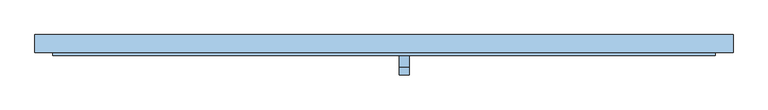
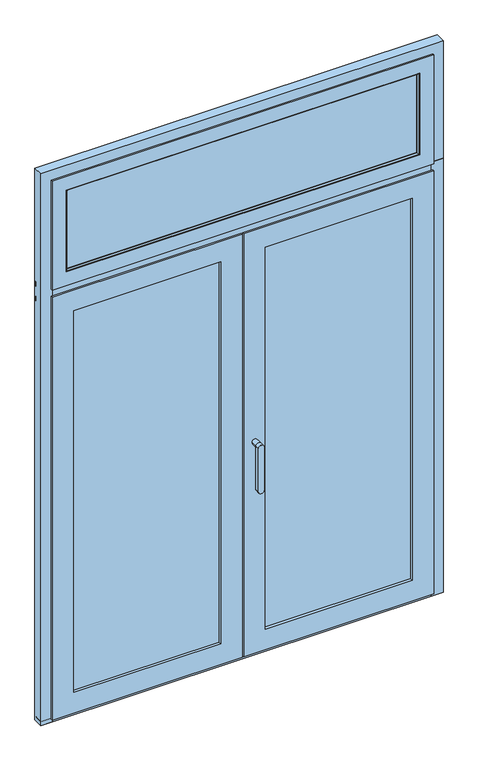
"""IFC4 building model written with IfcOpenShell, lengths in millimetres: window geometry, Double balcony door with toplight : Double balcony door with toplight."""

from ifc_helpers import new_model, si_unit, point, frame, frame_2d, origin, place, context, project, spatial, polyline, circle_curve, ellipse_curve, trimmed, segment, composite_curve, outline, extrude, faceted_brep, source, transform, mapped, element, save
from ifc_brep_helpers import plane_surface, cylinder_surface, advanced_brep


def window_083b68ea(model_context):
    return source(origin(), model_context, "Body", "SolidModel", [
        extrude(outline(polyline([(-791.0033737, 4.9350574), (791.0033737, 4.9350574), (791.0033737, -19.0649426), (-791.0033737, -19.0649426), (-791.0033737, 4.9350574)])), frame((0.0, 0.0, 2888.9966263), z_axis=(0.0, 0.0, 1.0), x_axis=(1.0, 0.0, 0.0)), (0.0, 0.0, 1.0), 402.0067474),
        advanced_brep(
        [(-775.9999852, -23.5000607, 2904.0000148), (-777.7795065, -30.8333995, 2902.2204935), (777.7795065, -30.8333995, 2902.2204935), (775.9999852, -23.5000607, 2904.0000148), (777.7795065, -30.8333995, 3277.7795065), (775.9999852, -23.5000607, 3275.9999852), (781.3346252, -33.0000607, 2898.6653748), (781.3346252, -33.0000607, 3281.3346252), (775.9999852, -19.0649426, 2904.0000148), (775.9999852, -19.0649426, 3275.9999852), (-775.9999852, -19.0649426, 2904.0000148), (791.0033737, -19.0649426, 2888.9966263), (-791.0033737, -19.0649426, 2888.9966263), (-791.0033737, -19.0649426, 3291.0033737), (791.0033737, -19.0649426, 3291.0033737), (-775.9999852, -19.0649426, 3275.9999852), (-791.0033737, 4.9350574, 2888.9966263), (791.0033737, 4.9350574, 2888.9966263), (791.0033737, 4.9350574, 3291.0033737), (-791.0033737, 4.9350574, 3291.0033737), (775.9999772, 4.9350574, 2904.0000228), (-775.9999772, 4.9350574, 2904.0000228), (-775.9999772, 4.9350574, 3275.9999772), (775.9999772, 4.9350574, 3275.9999772), (-775.9999772, 14.5000003, 2904.0000228), (775.9999772, 14.5000003, 2904.0000228), (775.9999772, 14.5000003, 3275.9999772), (781.4999772, 20.0000003, 2898.5000228), (781.4999772, 20.0000003, 3281.4999772), (-781.4999772, 20.0000003, 2898.5000228), (811.5, 20.0000002, 2868.5), (-811.5, 20.0000002, 2868.5), (-811.5, 20.0000002, 3311.5), (811.5, 20.0000002, 3311.5), (-781.4999772, 20.0000002, 3281.4999772), (-811.5, 12.0000003, 2868.5), (811.5, 12.0000003, 2868.5), (811.5, 12.0000003, 3311.5), (826.9999558, 12.0000003, 2853.0000442), (-826.9999558, 12.0000003, 2853.0000442), (-826.9999558, 12.0000003, 3326.9999558), (826.9999558, 12.0000003, 3326.9999558), (-811.5, 12.0000003, 3311.5), (-826.9999558, -25.0083922, 2853.0000442), (826.9999558, -25.0083922, 2853.0000442), (826.9999558, -25.0083922, 3326.9999558), (844.5000082, -25.0083922, 2835.4999918), (-844.5000082, -25.0083922, 2835.4999918), (-844.5000082, -25.0083922, 3344.5000082), (844.5000082, -25.0083922, 3344.5000082), (-826.9999558, -25.0083922, 3326.9999558), (-844.5000082, -33.0000607, 2835.4999918), (844.5000082, -33.0000607, 2835.4999918), (844.5000082, -33.0000607, 3344.5000082), (-844.5000082, -33.0000607, 3344.5000082), (-781.3346252, -33.0000607, 2898.6653748), (-781.3346252, -33.0000607, 3281.3346252), (-775.9999852, -23.5000607, 3275.9999852), (-777.7795065, -30.8333995, 3277.7795065), (-775.9999772, 14.5000003, 3275.9999772)],
        [
            (0, 1, ellipse_curve(frame((-791.9999492, -23.5000607, 2888.0000508), z_axis=(0.7071067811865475, 0.0, -0.7071067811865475), x_axis=(-0.7071067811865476, 0.0, -0.7071067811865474)), 22.6273661, 15.999964)),
            (1, 2),
            (2, 3, ellipse_curve(frame((791.9999492, -23.5000607, 2888.0000508), z_axis=(-0.7071067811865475, 0.0, -0.7071067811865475), x_axis=(-0.7071067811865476, 0.0, 0.7071067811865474)), 22.6273661, 15.999964)),
            (3, 0),
            (2, 4),
            (4, 5, ellipse_curve(frame((791.9999492, -23.5000607, 3291.9999492), z_axis=(0.7071067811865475, 0.0, -0.7071067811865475), x_axis=(-0.7071067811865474, 0.0, -0.7071067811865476)), 22.6273661, 15.999964)),
            (5, 3),
            (2, 6, ellipse_curve(frame((781.3346252, -29.0000607, 2898.6653748), z_axis=(0.7071067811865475, 0.0, 0.7071067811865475), x_axis=(0.7071067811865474, 0.0, -0.7071067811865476)), 5.6568542, 4.0)),
            (6, 7),
            (7, 4, ellipse_curve(frame((781.3346252, -29.0000607, 3281.3346252), z_axis=(0.7071067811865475, 0.0, -0.7071067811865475), x_axis=(-0.7071067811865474, 0.0, -0.7071067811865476)), 5.6568542, 4.0)),
            (8, 3),
            (5, 9),
            (9, 8),
            (10, 0),
            (8, 10),
            (11, 12),
            (12, 13),
            (13, 14),
            (14, 11),
            (9, 15),
            (15, 10),
            (16, 12),
            (11, 17),
            (17, 16),
            (14, 18),
            (18, 17),
            (18, 19),
            (19, 16),
            (20, 21),
            (21, 22),
            (22, 23),
            (23, 20),
            (24, 21),
            (20, 25),
            (25, 24),
            (23, 26),
            (26, 25),
            (27, 25, ellipse_curve(frame((781.4999772, 14.5000003, 2898.5000228), z_axis=(0.7071067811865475, 0.0, 0.7071067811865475), x_axis=(0.7071067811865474, 0.0, -0.7071067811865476)), 7.7781746, 5.5)),
            (26, 28, ellipse_curve(frame((781.4999772, 14.5000003, 3281.4999772), z_axis=(0.7071067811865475, 0.0, -0.7071067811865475), x_axis=(-0.7071067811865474, 0.0, -0.7071067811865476)), 7.7781746, 5.5)),
            (28, 27),
            (29, 24, ellipse_curve(frame((-781.4999772, 14.5000003, 2898.5000228), z_axis=(0.7071067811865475, 0.0, -0.7071067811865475), x_axis=(-0.7071067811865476, 0.0, -0.7071067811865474)), 7.7781746, 5.5)),
            (27, 29),
            (30, 31),
            (31, 32),
            (32, 33),
            (33, 30),
            (28, 34),
            (34, 29),
            (35, 31),
            (30, 36),
            (36, 35),
            (33, 37),
            (37, 36),
            (38, 39),
            (39, 40),
            (40, 41),
            (41, 38),
            (37, 42),
            (42, 35),
            (43, 39),
            (38, 44),
            (44, 43),
            (41, 45),
            (45, 44),
            (46, 47),
            (47, 48),
            (48, 49),
            (49, 46),
            (45, 50),
            (50, 43),
            (51, 47),
            (46, 52),
            (52, 51),
            (49, 53),
            (53, 52),
            (53, 54),
            (54, 51),
            (6, 55),
            (55, 56),
            (56, 7),
            (1, 55, ellipse_curve(frame((-781.3346252, -29.0000607, 2898.6653748), z_axis=(0.7071067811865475, 0.0, -0.7071067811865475), x_axis=(-0.7071067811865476, 0.0, -0.7071067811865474)), 5.6568542, 4.0)),
            (57, 58, ellipse_curve(frame((-791.9999492, -23.5000607, 3291.9999492), z_axis=(-0.7071067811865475, 0.0, -0.7071067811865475), x_axis=(-0.7071067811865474, 0.0, 0.7071067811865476)), 22.6273661, 15.999964)),
            (58, 1),
            (0, 57),
            (58, 56, ellipse_curve(frame((-781.3346252, -29.0000607, 3281.3346252), z_axis=(-0.7071067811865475, 0.0, -0.7071067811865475), x_axis=(-0.7071067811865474, 0.0, 0.7071067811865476)), 5.6568542, 4.0)),
            (15, 57),
            (19, 13),
            (59, 22),
            (24, 59),
            (34, 59, ellipse_curve(frame((-781.4999772, 14.5000003, 3281.4999772), z_axis=(-0.7071067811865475, 0.0, -0.7071067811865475), x_axis=(-0.7071067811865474, 0.0, 0.7071067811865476)), 7.7781746, 5.5)),
            (42, 32),
            (50, 40),
            (54, 48),
            (4, 58),
            (57, 5),
            (59, 26),
        ],
        [
            cylinder_surface(frame((-890.0, -23.5000607, 2888.0000508), z_axis=(-1.0, 0.0, 0.0), x_axis=(0.0, 0.0, 1.0)), 15.999964),
            cylinder_surface(frame((791.9999492, -23.5000607, 2790.0), z_axis=(0.0, 0.0, -1.0), x_axis=(-1.0, 0.0, 0.0)), 15.999964),
            cylinder_surface(frame((781.3346252, -29.0000607, 2790.0), z_axis=(0.0, 0.0, -1.0), x_axis=(-0.888780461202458, -0.45833316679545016, 0.0)), 4.0),
            plane_surface(frame((775.9999852, -23.5000607, 2904.0000148), z_axis=(-1.0, 0.0, 0.0), x_axis=(0.0, 0.0, 1.0))),
            plane_surface(frame((-775.9999852, -23.5000607, 2904.0000148), z_axis=(0.0, 0.0, 1.0), x_axis=(1.0, 0.0, 0.0))),
            plane_surface(frame((-775.9999852, -19.0649426, 2904.0000148), z_axis=(0.0, 1.0, 0.0), x_axis=(1.0, 0.0, 0.0))),
            plane_surface(frame((-791.0033737, -19.0649426, 2888.9966263), z_axis=(0.0, 0.0, 1.0), x_axis=(1.0, 0.0, 0.0))),
            plane_surface(frame((791.0033737, -19.0649426, 2888.9966263), z_axis=(-1.0, 0.0, 0.0), x_axis=(0.0, 0.0, 1.0))),
            plane_surface(frame((-791.0033737, 4.9350574, 2888.9966263), z_axis=(0.0, -1.0, 0.0), x_axis=(1.0, 0.0, 0.0))),
            plane_surface(frame((-775.9999772, 4.9350574, 2904.0000228), z_axis=(0.0, 0.0, 1.0), x_axis=(1.0, 0.0, 0.0))),
            plane_surface(frame((775.9999772, 4.9350574, 2904.0000228), z_axis=(-1.0, 0.0, 0.0), x_axis=(0.0, 0.0, 1.0))),
            cylinder_surface(frame((781.4999772, 14.5000003, 2790.0), z_axis=(0.0, 0.0, -1.0), x_axis=(0.0, 1.0, 0.0)), 5.5),
            cylinder_surface(frame((-890.0, 14.5000003, 2898.5000228), z_axis=(-1.0, 0.0, 0.0), x_axis=(0.0, 1.0, 0.0)), 5.5),
            plane_surface(frame((-781.4999772, 20.0000002, 2898.5000228), z_axis=(0.0, 1.0, 0.0), x_axis=(1.0, 0.0, 0.0))),
            plane_surface(frame((-811.5, 20.0000002, 2868.5), z_axis=(0.0, 0.0, -1.0), x_axis=(1.0, 0.0, 0.0))),
            plane_surface(frame((811.5, 20.0000002, 2868.5), z_axis=(1.0, 0.0, 0.0), x_axis=(0.0, 0.0, 1.0))),
            plane_surface(frame((-811.5, 12.0000003, 2868.5), z_axis=(0.0, 1.0, 0.0), x_axis=(1.0, 0.0, 0.0))),
            plane_surface(frame((-826.9999558, 12.0000003, 2853.0000442), z_axis=(0.0, 0.0, -1.0), x_axis=(1.0, 0.0, 0.0))),
            plane_surface(frame((826.9999558, 12.0000003, 2853.0000442), z_axis=(1.0, 0.0, 0.0), x_axis=(0.0, 0.0, 1.0))),
            plane_surface(frame((-826.9999558, -25.0083922, 2853.0000442), z_axis=(0.0, 1.0, 0.0), x_axis=(1.0, 0.0, 0.0))),
            plane_surface(frame((-844.5000082, -25.0083922, 2835.4999918), z_axis=(0.0, 0.0, -1.0), x_axis=(1.0, 0.0, 0.0))),
            plane_surface(frame((844.5000082, -25.0083922, 2835.4999918), z_axis=(1.0, 0.0, 0.0), x_axis=(0.0, 0.0, 1.0))),
            plane_surface(frame((-844.5000082, -33.0000607, 2835.4999918), z_axis=(0.0, -1.0, 0.0), x_axis=(1.0, 0.0, 0.0))),
            cylinder_surface(frame((-890.0, -29.0000607, 2898.6653748), z_axis=(-1.0, 0.0, 0.0), x_axis=(0.0, -0.45833316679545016, 0.888780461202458)), 4.0),
            cylinder_surface(frame((-791.9999492, -23.5000607, 3390.0), z_axis=(0.0, 0.0, 1.0), x_axis=(1.0, 0.0, 0.0)), 15.999964),
            cylinder_surface(frame((-781.3346252, -29.0000607, 3390.0), z_axis=(0.0, 0.0, 1.0), x_axis=(0.888780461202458, -0.45833316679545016, 0.0)), 4.0),
            plane_surface(frame((-775.9999852, -23.5000607, 3275.9999852), z_axis=(1.0, 0.0, 0.0), x_axis=(0.0, 0.0, -1.0))),
            plane_surface(frame((-791.0033737, -19.0649426, 3291.0033737), z_axis=(1.0, 0.0, 0.0), x_axis=(0.0, 0.0, -1.0))),
            plane_surface(frame((-775.9999772, 4.9350574, 3275.9999772), z_axis=(1.0, 0.0, 0.0), x_axis=(0.0, 0.0, -1.0))),
            cylinder_surface(frame((-781.4999772, 14.5000003, 3390.0), z_axis=(0.0, 0.0, 1.0), x_axis=(0.0, 1.0, 0.0)), 5.5),
            plane_surface(frame((-811.5, 20.0000002, 3311.5), z_axis=(-1.0, 0.0, 0.0), x_axis=(0.0, 0.0, -1.0))),
            plane_surface(frame((-826.9999558, 12.0000003, 3326.9999558), z_axis=(-1.0, 0.0, 0.0), x_axis=(0.0, 0.0, -1.0))),
            plane_surface(frame((-844.5000082, -25.0083922, 3344.5000082), z_axis=(-1.0, 0.0, 0.0), x_axis=(0.0, 0.0, -1.0))),
            cylinder_surface(frame((890.0, -23.5000607, 3291.9999492), z_axis=(1.0, 0.0, 0.0), x_axis=(0.0, 0.0, -1.0)), 15.999964),
            plane_surface(frame((775.9999852, -23.5000607, 3275.9999852), z_axis=(0.0, 0.0, -1.0), x_axis=(-1.0, 0.0, 0.0))),
            plane_surface(frame((791.0033737, -19.0649426, 3291.0033737), z_axis=(0.0, 0.0, -1.0), x_axis=(-1.0, 0.0, 0.0))),
            plane_surface(frame((775.9999772, 4.9350574, 3275.9999772), z_axis=(0.0, 0.0, -1.0), x_axis=(-1.0, 0.0, 0.0))),
            cylinder_surface(frame((890.0, 14.5000003, 3281.4999772), z_axis=(1.0, 0.0, 0.0), x_axis=(0.0, 1.0, 0.0)), 5.5),
            plane_surface(frame((811.5, 20.0000002, 3311.5), z_axis=(0.0, 0.0, 1.0), x_axis=(-1.0, 0.0, 0.0))),
            plane_surface(frame((826.9999558, 12.0000003, 3326.9999558), z_axis=(0.0, 0.0, 1.0), x_axis=(-1.0, 0.0, 0.0))),
            plane_surface(frame((844.5000082, -25.0083922, 3344.5000082), z_axis=(0.0, 0.0, 1.0), x_axis=(-1.0, 0.0, 0.0))),
            cylinder_surface(frame((890.0, -29.0000607, 3281.3346252), z_axis=(1.0, 0.0, 0.0), x_axis=(0.0, -0.45833316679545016, -0.888780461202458)), 4.0),
        ],
        [
            (0, [[1, 2, 3, 4]]),
            (1, [[-3, 5, 6, 7]]),
            (2, [[8, 9, 10, -5]]),
            (3, [[11, -7, 12, 13]]),
            (4, [[14, -4, -11, 15]]),
            (5, [[16, 17, 18, 19], [20, 21, -15, -13]]),
            (6, [[22, -16, 23, 24]]),
            (7, [[-23, -19, 25, 26]]),
            (8, [[27, 28, -24, -26], [29, 30, 31, 32]]),
            (9, [[33, -29, 34, 35]]),
            (10, [[-34, -32, 36, 37]]),
            (11, [[38, -37, 39, 40]]),
            (12, [[41, -35, -38, 42]]),
            (13, [[43, 44, 45, 46], [47, 48, -42, -40]]),
            (14, [[49, -43, 50, 51]]),
            (15, [[-50, -46, 52, 53]]),
            (16, [[54, 55, 56, 57], [58, 59, -51, -53]]),
            (17, [[60, -54, 61, 62]]),
            (18, [[-61, -57, 63, 64]]),
            (19, [[65, 66, 67, 68], [69, 70, -62, -64]]),
            (20, [[71, -65, 72, 73]]),
            (21, [[-72, -68, 74, 75]]),
            (22, [[76, 77, -73, -75], [78, 79, 80, -9]]),
            (23, [[81, -78, -8, -2]]),
            (24, [[82, 83, -1, 84]]),
            (25, [[85, -79, -81, -83]]),
            (26, [[86, -84, -14, -21]]),
            (27, [[87, -17, -22, -28]]),
            (28, [[88, -30, -33, 89]]),
            (29, [[90, -89, -41, -48]]),
            (30, [[91, -44, -49, -59]]),
            (31, [[92, -55, -60, -70]]),
            (32, [[93, -66, -71, -77]]),
            (33, [[-6, 94, -82, 95]]),
            (34, [[-12, -95, -86, -20]]),
            (35, [[-25, -18, -87, -27]]),
            (36, [[-36, -31, -88, 96]]),
            (37, [[-39, -96, -90, -47]]),
            (38, [[-52, -45, -91, -58]]),
            (39, [[-63, -56, -92, -69]]),
            (40, [[-74, -67, -93, -76]]),
            (41, [[-10, -80, -85, -94]]),
        ],
    ),
        advanced_brep(
        [(39.5000095, -82.9999106, 1813.5), (39.5000095, -82.9999106, 1613.5), (64.5000095, -82.9999106, 1613.5), (64.5000095, -82.9999106, 1813.5), (64.5000095, -62.9999106, 1813.5), (64.5000095, -62.9999106, 1613.5), (39.5000095, -62.9999106, 1613.5), (39.5000095, -62.9999106, 1813.5), (39.5000095, -32.9999106, 1813.5), (64.5000095, -32.9999106, 1813.5)],
        [
            (0, 1),
            (1, 2, circle_curve(frame((52.0000095, -82.9999106, 1613.5), z_axis=(0.0, -1.0, 0.0), x_axis=(1.0, 0.0, 0.0)), 12.5)),
            (2, 3),
            (3, 0, circle_curve(frame((52.0000095, -82.9999106, 1813.5), z_axis=(0.0, -1.0, 0.0), x_axis=(1.0, 0.0, 0.0)), 12.5)),
            (4, 5),
            (5, 6, circle_curve(frame((52.0000095, -62.9999106, 1613.5), z_axis=(0.0, 1.0, 0.0), x_axis=(1.0, 0.0, 0.0)), 12.5)),
            (6, 7),
            (7, 4, circle_curve(frame((52.0000095, -62.9999106, 1813.5), z_axis=(0.0, -1.0, 0.0), x_axis=(1.0, 0.0, 0.0)), 12.5)),
            (0, 7),
            (6, 1),
            (5, 2),
            (4, 3),
            (4, 7, circle_curve(frame((52.0000095, -62.9999106, 1813.5), z_axis=(0.0, -1.0, 0.0), x_axis=(1.0, 0.0, 0.0)), 12.5)),
            (8, 9, circle_curve(frame((52.0000095, -32.9999106, 1813.5), z_axis=(0.0, 1.0, 0.0), x_axis=(1.0, 0.0, 0.0)), 12.5)),
            (9, 8, circle_curve(frame((52.0000095, -32.9999106, 1813.5), z_axis=(0.0, 1.0, 0.0), x_axis=(1.0, 0.0, 0.0)), 12.5)),
            (9, 4),
            (7, 8),
        ],
        [
            plane_surface(frame((39.5000095, -82.9999106, 1813.5), z_axis=(0.0, -1.0, 0.0), x_axis=(0.0, 0.0, -1.0))),
            plane_surface(frame((39.5000095, -62.9999106, 1813.5), z_axis=(0.0, 1.0, 0.0), x_axis=(0.0, 0.0, 1.0))),
            plane_surface(frame((39.5000095, -82.9999106, 1813.5), z_axis=(-1.0, 0.0, 0.0), x_axis=(0.0, 1.0, 0.0))),
            cylinder_surface(frame((52.0000095, -62.9999106, 1613.5), z_axis=(0.0, -1.0, 0.0), x_axis=(1.0, 0.0, 0.0)), 12.5),
            plane_surface(frame((64.5000095, -82.9999106, 1613.5), z_axis=(1.0, 0.0, 0.0), x_axis=(0.0, 1.0, 0.0))),
            cylinder_surface(frame((52.0000095, -62.9999106, 1813.5), z_axis=(0.0, -1.0, 0.0), x_axis=(1.0, 0.0, 0.0)), 12.5),
            plane_surface(frame((64.5000095, -32.9999106, 1813.5), z_axis=(0.0, 1.0, 0.0), x_axis=(0.0, 0.0, -1.0))),
            cylinder_surface(frame((52.0000095, -32.9999106, 1813.5), z_axis=(0.0, -1.0, 0.0), x_axis=(1.0, 0.0, 0.0)), 12.5),
        ],
        [
            (0, [[1, 2, 3, 4]]),
            (1, [[5, 6, 7, 8]]),
            (2, [[-1, 9, -7, 10]]),
            (3, [[-2, -10, -6, 11]]),
            (4, [[-3, -11, -5, 12]]),
            (5, [[-4, -12, 13, -9]]),
            (6, [[14, 15]]),
            (7, [[-15, 16, -8, 17]]),
            (7, [[-14, -17, -13, -16]]),
        ],
    ),
        extrude(outline(polyline([(83.3034335, 4.499239), (763.6965665, 4.499239), (763.6965665, -19.5007315), (83.3034335, -19.5007315), (83.3034335, 4.499239)])), frame((0.0, 0.0, 905.3034335), z_axis=(0.0, 0.0, 1.0), x_axis=(1.0, 0.0, 0.0)), (0.0, 0.0, 1.0), 1816.3931331),
        advanced_brep(
        [(748.7001046, 14.5000063, 2706.7001046), (754.2001016, 20.0, 2712.2001016), (754.2001016, 20.0, 914.7998984), (748.7001046, 14.5000063, 920.2998954), (811.4993978, 20.0, 857.5006022), (35.5006022, 20.0, 857.5006022), (35.5006022, 20.0, 2769.4993978), (811.4993978, 20.0, 2769.4993978), (92.7998984, 20.0, 2712.2001016), (92.7998984, 20.0, 914.7998984), (98.2998954, 14.5000063, 920.2998954), (748.7000986, 4.499239, 2706.7000986), (748.7000986, 4.499239, 920.2999014), (98.2999014, 4.499239, 920.2999014), (763.6965665, 4.499239, 2721.6965665), (83.3034335, 4.499239, 2721.6965665), (83.3034335, 4.499239, 905.3034335), (763.6965665, 4.499239, 905.3034335), (98.2999014, 4.499239, 2706.7000986), (763.6965665, -19.5007315, 2721.6965665), (763.6965665, -19.5007315, 905.3034335), (83.3034335, -19.5007315, 905.3034335), (83.3034335, -19.5007315, 2721.6965665), (748.7000738, -19.5007315, 2706.7000738), (98.2999262, -19.5007315, 2706.7000738), (98.2999262, -19.5007315, 920.2999262), (748.7000738, -19.5007315, 920.2999262), (748.7000738, -32.9999106, 2706.7000738), (748.7000738, -32.9999106, 920.2999262), (98.2999262, -32.9999106, 920.2999262), (844.4999905, -32.9999106, 2802.4999905), (2.5000095, -32.9999106, 2802.4999905), (2.5000095, -32.9999106, 824.5000095), (844.4999905, -32.9999106, 824.5000095), (98.2999262, -32.9999106, 2706.7000738), (844.4999905, -24.9999669, 2802.4999905), (844.4999905, -24.9999669, 824.5000095), (2.5000095, -24.9999669, 824.5000095), (2.5000095, -24.9999669, 2802.4999905), (826.9999853, -24.9999669, 2784.9999853), (20.0000147, -24.9999669, 2784.9999853), (20.0000147, -24.9999669, 842.0000147), (826.9999853, -24.9999669, 842.0000147), (826.9999853, 12.0000948, 2784.9999853), (826.9999853, 12.0000948, 842.0000147), (20.0000147, 12.0000948, 842.0000147), (20.0000147, 12.0000948, 2784.9999853), (811.4993978, 12.0000948, 2769.4993978), (35.5006022, 12.0000948, 2769.4993978), (35.5006022, 12.0000948, 857.5006022), (811.4993978, 12.0000948, 857.5006022), (98.2998954, 14.5000063, 2706.7001046)],
        [
            (0, 1, ellipse_curve(frame((754.2001016, 14.500003, 2712.2001016), z_axis=(0.7071067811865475, 0.0, -0.7071067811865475), x_axis=(0.7071067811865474, 0.0, 0.7071067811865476)), 7.7781703, 5.499997)),
            (1, 2),
            (2, 3, ellipse_curve(frame((754.2001016, 14.500003, 914.7998984), z_axis=(0.7071067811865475, 0.0, 0.7071067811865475), x_axis=(-0.7071067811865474, 0.0, 0.7071067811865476)), 7.7781703, 5.499997)),
            (3, 0),
            (4, 5),
            (5, 6),
            (6, 7),
            (7, 4),
            (1, 8),
            (8, 9),
            (9, 2),
            (9, 10, ellipse_curve(frame((92.7998984, 14.500003, 914.7998984), z_axis=(0.7071067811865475, 0.0, -0.7071067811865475), x_axis=(0.7071067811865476, 0.0, 0.7071067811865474)), 7.7781703, 5.499997)),
            (10, 3),
            (11, 0),
            (3, 12),
            (12, 11),
            (10, 13),
            (13, 12),
            (14, 15),
            (15, 16),
            (16, 17),
            (17, 14),
            (13, 18),
            (18, 11),
            (19, 14),
            (17, 20),
            (20, 19),
            (16, 21),
            (21, 20),
            (21, 22),
            (22, 19),
            (23, 24),
            (24, 25),
            (25, 26),
            (26, 23),
            (27, 23),
            (26, 28),
            (28, 27),
            (25, 29),
            (29, 28),
            (30, 31),
            (31, 32),
            (32, 33),
            (33, 30),
            (29, 34),
            (34, 27),
            (35, 30),
            (33, 36),
            (36, 35),
            (32, 37),
            (37, 36),
            (37, 38),
            (38, 35),
            (39, 40),
            (40, 41),
            (41, 42),
            (42, 39),
            (43, 39),
            (42, 44),
            (44, 43),
            (41, 45),
            (45, 44),
            (45, 46),
            (46, 43),
            (47, 48),
            (48, 49),
            (49, 50),
            (50, 47),
            (7, 47),
            (50, 4),
            (49, 5),
            (8, 51, ellipse_curve(frame((92.7998984, 14.500003, 2712.2001016), z_axis=(-0.7071067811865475, 0.0, -0.7071067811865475), x_axis=(0.7071067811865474, 0.0, -0.7071067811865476)), 7.7781703, 5.499997)),
            (51, 10),
            (51, 18),
            (15, 22),
            (24, 34),
            (31, 38),
            (40, 46),
            (48, 6),
            (0, 51),
        ],
        [
            cylinder_surface(frame((754.2001016, 14.500003, 2848.0), z_axis=(0.0, 0.0, 1.0000000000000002), x_axis=(-0.9999999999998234, 5.945878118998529e-07, 0.0)), 5.499997),
            plane_surface(frame((35.5006022, 20.0, 2769.4993978), z_axis=(0.0, 1.0, 0.0), x_axis=(1.0, 0.0, 0.0))),
            cylinder_surface(frame((890.0, 14.500003, 914.7998984), z_axis=(1.0000000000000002, 0.0, 0.0), x_axis=(0.0, 5.945878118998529e-07, 0.9999999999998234)), 5.499997),
            plane_surface(frame((748.7000986, 14.5000063, 2706.7000986), z_axis=(-1.0, 0.0, 0.0), x_axis=(0.0, 0.0, -1.0))),
            plane_surface(frame((748.7000986, 14.5000063, 920.2999014), z_axis=(0.0, 0.0, 1.0), x_axis=(-1.0, 0.0, 0.0))),
            plane_surface(frame((98.2999014, 4.499239, 2706.7000986), z_axis=(0.0, -1.0, 0.0), x_axis=(1.0, 0.0, 0.0))),
            plane_surface(frame((763.6965665, 4.499239, 2721.6965665), z_axis=(-1.0, 0.0, 0.0), x_axis=(0.0, 0.0, -1.0))),
            plane_surface(frame((763.6965665, 4.499239, 905.3034335), z_axis=(0.0, 0.0, 1.0), x_axis=(-1.0, 0.0, 0.0))),
            plane_surface(frame((83.3034335, -19.5007315, 2721.6965665), z_axis=(0.0, 1.0, 0.0), x_axis=(1.0, 0.0, 0.0))),
            plane_surface(frame((748.7000738, -19.5007315, 2706.7000738), z_axis=(-1.0, 0.0, 0.0), x_axis=(0.0, 0.0, -1.0))),
            plane_surface(frame((748.7000738, -19.5007315, 920.2999262), z_axis=(0.0, 0.0, 1.0), x_axis=(-1.0, 0.0, 0.0))),
            plane_surface(frame((98.2999262, -32.9999106, 2706.7000738), z_axis=(0.0, -1.0, 0.0), x_axis=(1.0, 0.0, 0.0))),
            plane_surface(frame((844.4999905, -32.9999106, 2802.4999905), z_axis=(1.0, 0.0, 0.0), x_axis=(0.0, 0.0, -1.0))),
            plane_surface(frame((844.4999905, -32.9999106, 824.5000095), z_axis=(0.0, 0.0, -1.0), x_axis=(-1.0, 0.0, 0.0))),
            plane_surface(frame((2.5000095, -24.9999669, 2802.4999905), z_axis=(0.0, 1.0, 0.0), x_axis=(1.0, 0.0, 0.0))),
            plane_surface(frame((826.9999853, -24.9999669, 2784.9999853), z_axis=(1.0, 0.0, 0.0), x_axis=(0.0, 0.0, -1.0))),
            plane_surface(frame((826.9999853, -24.9999669, 842.0000147), z_axis=(0.0, 0.0, -1.0), x_axis=(-1.0, 0.0, 0.0))),
            plane_surface(frame((20.0000147, 12.0000948, 2784.9999853), z_axis=(0.0, 1.0, 0.0), x_axis=(1.0, 0.0, 0.0))),
            plane_surface(frame((811.4993978, 12.0000948, 2769.4993978), z_axis=(1.0, 0.0, 0.0), x_axis=(0.0, 0.0, -1.0))),
            plane_surface(frame((811.4993978, 12.0000948, 857.5006022), z_axis=(0.0, 0.0, -1.0), x_axis=(-1.0, 0.0, 0.0))),
            cylinder_surface(frame((92.7998984, 14.500003, 779.0), z_axis=(0.0, 0.0, -1.0000000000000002), x_axis=(0.9999999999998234, 5.945878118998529e-07, 0.0)), 5.499997),
            plane_surface(frame((98.2999014, 14.5000063, 920.2999014), z_axis=(1.0, 0.0, 0.0), x_axis=(0.0, 0.0, 1.0))),
            plane_surface(frame((83.3034335, 4.499239, 905.3034335), z_axis=(1.0, 0.0, 0.0), x_axis=(0.0, 0.0, 1.0))),
            plane_surface(frame((98.2999262, -19.5007315, 920.2999262), z_axis=(1.0, 0.0, 0.0), x_axis=(0.0, 0.0, 1.0))),
            plane_surface(frame((2.5000095, -32.9999106, 824.5000095), z_axis=(-1.0, 0.0, 0.0), x_axis=(0.0, 0.0, 1.0))),
            plane_surface(frame((20.0000147, -24.9999669, 842.0000147), z_axis=(-1.0, 0.0, 0.0), x_axis=(0.0, 0.0, 1.0))),
            plane_surface(frame((35.5006022, 12.0000948, 857.5006022), z_axis=(-1.0, 0.0, 0.0), x_axis=(0.0, 0.0, 1.0))),
            cylinder_surface(frame((-43.0, 14.500003, 2712.2001016), z_axis=(-1.0000000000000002, 0.0, 0.0), x_axis=(0.0, 5.945878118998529e-07, -0.9999999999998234)), 5.499997),
            plane_surface(frame((98.2999014, 14.5000063, 2706.7000986), z_axis=(0.0, 0.0, -1.0), x_axis=(1.0, 0.0, 0.0))),
            plane_surface(frame((83.3034335, 4.499239, 2721.6965665), z_axis=(0.0, 0.0, -1.0), x_axis=(1.0, 0.0, 0.0))),
            plane_surface(frame((98.2999262, -19.5007315, 2706.7000738), z_axis=(0.0, 0.0, -1.0), x_axis=(1.0, 0.0, 0.0))),
            plane_surface(frame((2.5000095, -32.9999106, 2802.4999905), z_axis=(0.0, 0.0, 1.0), x_axis=(1.0, 0.0, 0.0))),
            plane_surface(frame((20.0000147, -24.9999669, 2784.9999853), z_axis=(0.0, 0.0, 1.0), x_axis=(1.0, 0.0, 0.0))),
            plane_surface(frame((35.5006022, 12.0000948, 2769.4993978), z_axis=(0.0, 0.0, 1.0), x_axis=(1.0, 0.0, 0.0))),
        ],
        [
            (0, [[1, 2, 3, 4]]),
            (1, [[5, 6, 7, 8], [9, 10, 11, -2]]),
            (2, [[-3, -11, 12, 13]]),
            (3, [[14, -4, 15, 16]]),
            (4, [[-15, -13, 17, 18]]),
            (5, [[19, 20, 21, 22], [-18, 23, 24, -16]]),
            (6, [[25, -22, 26, 27]]),
            (7, [[-26, -21, 28, 29]]),
            (8, [[-29, 30, 31, -27], [32, 33, 34, 35]]),
            (9, [[36, -35, 37, 38]]),
            (10, [[-37, -34, 39, 40]]),
            (11, [[41, 42, 43, 44], [-40, 45, 46, -38]]),
            (12, [[47, -44, 48, 49]]),
            (13, [[-48, -43, 50, 51]]),
            (14, [[-51, 52, 53, -49], [54, 55, 56, 57]]),
            (15, [[58, -57, 59, 60]]),
            (16, [[-59, -56, 61, 62]]),
            (17, [[-62, 63, 64, -60], [65, 66, 67, 68]]),
            (18, [[69, -68, 70, -8]]),
            (19, [[-70, -67, 71, -5]]),
            (20, [[-12, -10, 72, 73]]),
            (21, [[-17, -73, 74, -23]]),
            (22, [[-28, -20, 75, -30]]),
            (23, [[-39, -33, 76, -45]]),
            (24, [[-50, -42, 77, -52]]),
            (25, [[-61, -55, 78, -63]]),
            (26, [[-71, -66, 79, -6]]),
            (27, [[-72, -9, -1, 80]]),
            (28, [[-74, -80, -14, -24]]),
            (29, [[-75, -19, -25, -31]]),
            (30, [[-76, -32, -36, -46]]),
            (31, [[-77, -41, -47, -53]]),
            (32, [[-78, -54, -58, -64]]),
            (33, [[-79, -65, -69, -7]]),
        ],
    ),
        extrude(outline(polyline([(-763.6965665, 4.499239), (-83.3034335, 4.499239), (-83.3034335, -19.5007315), (-763.6965665, -19.5007315), (-763.6965665, 4.499239)])), frame((0.0, 0.0, 905.3034335), z_axis=(0.0, 0.0, 1.0), x_axis=(1.0, 0.0, 0.0)), (0.0, 0.0, 1.0), 1816.3931331),
        extrude(outline(polyline([(8.5004821, 12.0000053), (8.5004821, -24.9999052), (-20.0000147, -24.9999052), (-20.0000147, 12.0000053), (-30.4997309, 12.0000053), (-30.4997309, 20.0000338), (30.5004905, 20.0000338), (30.5004905, 12.0000053), (8.5004821, 12.0000053)])), frame((0.0, 0.0, 857.5000095), z_axis=(0.0, 0.0, 1.0), x_axis=(1.0, 0.0, 0.0)), (0.0, 0.0, 1.0), 1911.9999809),
        advanced_brep(
        [(-748.7001046, 14.5000063, 2706.7001046), (-754.2001016, 20.0, 2712.2001016), (-92.7998984, 20.0, 2712.2001016), (-98.2998954, 14.5000063, 2706.7001046), (-92.7998984, 20.0, 914.7998984), (-98.2998954, 14.5000063, 920.2998954), (-35.5006022, 20.0, 857.5006022), (-811.4993978, 20.0, 857.5006022), (-811.4993978, 20.0, 2769.4993978), (-35.5006022, 20.0, 2769.4993978), (-754.2001016, 20.0, 914.7998984), (-748.7001046, 14.5000063, 920.2998954), (-98.2999014, 4.499239, 2706.7000986), (-98.2999014, 4.499239, 920.2999014), (-748.7000986, 4.499239, 2706.7000986), (-748.7000986, 4.499239, 920.2999014), (-83.3034335, 4.499239, 2721.6965665), (-763.6965665, 4.499239, 2721.6965665), (-763.6965665, 4.499239, 905.3034335), (-83.3034335, 4.499239, 905.3034335), (-83.3034335, -19.5007315, 2721.6965665), (-83.3034335, -19.5007315, 905.3034335), (-763.6965665, -19.5007315, 905.3034335), (-763.6965665, -19.5007315, 2721.6965665), (-98.2999262, -19.5007315, 2706.7000738), (-748.7000738, -19.5007315, 2706.7000738), (-748.7000738, -19.5007315, 920.2999262), (-98.2999262, -19.5007315, 920.2999262), (-748.7000738, -32.9999106, 2706.7000738), (-98.2999262, -32.9999106, 2706.7000738), (-98.2999262, -32.9999106, 920.2999262), (-748.7000738, -32.9999106, 920.2999262), (-2.5000095, -32.9999106, 2802.4999905), (-844.4999905, -32.9999106, 2802.4999905), (-844.4999905, -32.9999106, 824.5000095), (-2.5000095, -32.9999106, 824.5000095), (-2.5000095, -24.9999669, 2802.4999905), (-2.5000095, -24.9999669, 824.5000095), (-844.4999905, -24.9999669, 824.5000095), (-844.4999905, -24.9999669, 2802.4999905), (-20.0000147, -24.9999669, 2784.9999853), (-826.9999853, -24.9999669, 2784.9999853), (-826.9999853, -24.9999669, 842.0000147), (-20.0000147, -24.9999669, 842.0000147), (-20.0000147, 12.0000948, 2784.9999853), (-20.0000147, 12.0000948, 842.0000147), (-826.9999853, 12.0000948, 842.0000147), (-826.9999853, 12.0000948, 2784.9999853), (-35.5006022, 12.0000948, 2769.4993978), (-811.4993978, 12.0000948, 2769.4993978), (-811.4993978, 12.0000948, 857.5006022), (-35.5006022, 12.0000948, 857.5006022)],
        [
            (0, 1, ellipse_curve(frame((-754.2001016, 14.500003, 2712.2001016), z_axis=(0.7071067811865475, 0.0, 0.7071067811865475), x_axis=(-0.7071067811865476, 0.0, 0.7071067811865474)), 7.7781703, 5.499997)),
            (1, 2),
            (2, 3, ellipse_curve(frame((-92.7998984, 14.500003, 2712.2001016), z_axis=(-0.7071067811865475, 0.0, 0.7071067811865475), x_axis=(-0.7071067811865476, 0.0, -0.7071067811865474)), 7.7781703, 5.499997)),
            (3, 0),
            (2, 4),
            (4, 5, ellipse_curve(frame((-92.7998984, 14.500003, 914.7998984), z_axis=(0.7071067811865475, 0.0, 0.7071067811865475), x_axis=(-0.7071067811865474, 0.0, 0.7071067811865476)), 7.7781703, 5.499997)),
            (5, 3),
            (6, 7),
            (7, 8),
            (8, 9),
            (9, 6),
            (1, 10),
            (10, 4),
            (10, 11, ellipse_curve(frame((-754.2001016, 14.500003, 914.7998984), z_axis=(0.7071067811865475, 0.0, -0.7071067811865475), x_axis=(0.7071067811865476, 0.0, 0.7071067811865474)), 7.7781703, 5.499997)),
            (11, 5),
            (12, 3),
            (5, 13),
            (13, 12),
            (14, 0),
            (12, 14),
            (11, 15),
            (15, 13),
            (16, 17),
            (17, 18),
            (18, 19),
            (19, 16),
            (15, 14),
            (20, 16),
            (19, 21),
            (21, 20),
            (18, 22),
            (22, 21),
            (22, 23),
            (23, 20),
            (24, 25),
            (25, 26),
            (26, 27),
            (27, 24),
            (28, 25),
            (24, 29),
            (29, 28),
            (27, 30),
            (30, 29),
            (26, 31),
            (31, 30),
            (32, 33),
            (33, 34),
            (34, 35),
            (35, 32),
            (31, 28),
            (36, 32),
            (35, 37),
            (37, 36),
            (34, 38),
            (38, 37),
            (38, 39),
            (39, 36),
            (40, 41),
            (41, 42),
            (42, 43),
            (43, 40),
            (44, 40),
            (43, 45),
            (45, 44),
            (42, 46),
            (46, 45),
            (46, 47),
            (47, 44),
            (48, 49),
            (49, 50),
            (50, 51),
            (51, 48),
            (9, 48),
            (51, 6),
            (50, 7),
            (0, 11),
            (17, 23),
            (33, 39),
            (41, 47),
            (49, 8),
        ],
        [
            cylinder_surface(frame((-890.0, 14.500003, 2712.2001016), z_axis=(-1.0000000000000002, 0.0, 0.0), x_axis=(0.0, 5.945878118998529e-07, -0.9999999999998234)), 5.499997),
            cylinder_surface(frame((-92.7998984, 14.500003, 2848.0), z_axis=(0.0, 0.0, 1.0000000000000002), x_axis=(-0.9999999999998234, 5.945878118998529e-07, 0.0)), 5.499997),
            plane_surface(frame((-811.4993978, 20.0, 2769.4993978), z_axis=(0.0, 1.0, 0.0), x_axis=(1.0, 0.0, 0.0))),
            cylinder_surface(frame((43.0, 14.500003, 914.7998984), z_axis=(1.0000000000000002, 0.0, 0.0), x_axis=(0.0, 5.945878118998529e-07, 0.9999999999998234)), 5.499997),
            plane_surface(frame((-98.2999014, 14.5000063, 2706.7000986), z_axis=(-1.0, 0.0, 0.0), x_axis=(0.0, 0.0, -1.0))),
            plane_surface(frame((-748.7000986, 14.5000063, 2706.7000986), z_axis=(0.0, 0.0, -1.0), x_axis=(1.0, 0.0, 0.0))),
            plane_surface(frame((-98.2999014, 14.5000063, 920.2999014), z_axis=(0.0, 0.0, 1.0), x_axis=(-1.0, 0.0, 0.0))),
            plane_surface(frame((-748.7000986, 4.499239, 2706.7000986), z_axis=(0.0, -1.0, 0.0), x_axis=(1.0, 0.0, 0.0))),
            plane_surface(frame((-83.3034335, 4.499239, 2721.6965665), z_axis=(-1.0, 0.0, 0.0), x_axis=(0.0, 0.0, -1.0))),
            plane_surface(frame((-83.3034335, 4.499239, 905.3034335), z_axis=(0.0, 0.0, 1.0), x_axis=(-1.0, 0.0, 0.0))),
            plane_surface(frame((-763.6965665, -19.5007315, 2721.6965665), z_axis=(0.0, 1.0, 0.0), x_axis=(1.0, 0.0, 0.0))),
            plane_surface(frame((-748.7000738, -19.5007315, 2706.7000738), z_axis=(0.0, 0.0, -1.0), x_axis=(1.0, 0.0, 0.0))),
            plane_surface(frame((-98.2999262, -19.5007315, 2706.7000738), z_axis=(-1.0, 0.0, 0.0), x_axis=(0.0, 0.0, -1.0))),
            plane_surface(frame((-98.2999262, -19.5007315, 920.2999262), z_axis=(0.0, 0.0, 1.0), x_axis=(-1.0, 0.0, 0.0))),
            plane_surface(frame((-748.7000738, -32.9999106, 2706.7000738), z_axis=(0.0, -1.0, 0.0), x_axis=(1.0, 0.0, 0.0))),
            plane_surface(frame((-2.5000095, -32.9999106, 2802.4999905), z_axis=(1.0, 0.0, 0.0), x_axis=(0.0, 0.0, -1.0))),
            plane_surface(frame((-2.5000095, -32.9999106, 824.5000095), z_axis=(0.0, 0.0, -1.0), x_axis=(-1.0, 0.0, 0.0))),
            plane_surface(frame((-844.4999905, -24.9999669, 2802.4999905), z_axis=(0.0, 1.0, 0.0), x_axis=(1.0, 0.0, 0.0))),
            plane_surface(frame((-20.0000147, -24.9999669, 2784.9999853), z_axis=(1.0, 0.0, 0.0), x_axis=(0.0, 0.0, -1.0))),
            plane_surface(frame((-20.0000147, -24.9999669, 842.0000147), z_axis=(0.0, 0.0, -1.0), x_axis=(-1.0, 0.0, 0.0))),
            plane_surface(frame((-826.9999853, 12.0000948, 2784.9999853), z_axis=(0.0, 1.0, 0.0), x_axis=(1.0, 0.0, 0.0))),
            plane_surface(frame((-35.5006022, 12.0000948, 2769.4993978), z_axis=(1.0, 0.0, 0.0), x_axis=(0.0, 0.0, -1.0))),
            plane_surface(frame((-35.5006022, 12.0000948, 857.5006022), z_axis=(0.0, 0.0, -1.0), x_axis=(-1.0, 0.0, 0.0))),
            cylinder_surface(frame((-754.2001016, 14.500003, 779.0), z_axis=(0.0, 0.0, -1.0000000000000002), x_axis=(0.9999999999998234, 5.945878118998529e-07, 0.0)), 5.499997),
            plane_surface(frame((-748.7000986, 14.5000063, 920.2999014), z_axis=(1.0, 0.0, 0.0), x_axis=(0.0, 0.0, 1.0))),
            plane_surface(frame((-763.6965665, 4.499239, 905.3034335), z_axis=(1.0, 0.0, 0.0), x_axis=(0.0, 0.0, 1.0))),
            plane_surface(frame((-748.7000738, -19.5007315, 920.2999262), z_axis=(1.0, 0.0, 0.0), x_axis=(0.0, 0.0, 1.0))),
            plane_surface(frame((-844.4999905, -32.9999106, 824.5000095), z_axis=(-1.0, 0.0, 0.0), x_axis=(0.0, 0.0, 1.0))),
            plane_surface(frame((-826.9999853, -24.9999669, 842.0000147), z_axis=(-1.0, 0.0, 0.0), x_axis=(0.0, 0.0, 1.0))),
            plane_surface(frame((-811.4993978, 12.0000948, 857.5006022), z_axis=(-1.0, 0.0, 0.0), x_axis=(0.0, 0.0, 1.0))),
            plane_surface(frame((-763.6965665, 4.499239, 2721.6965665), z_axis=(0.0, 0.0, -1.0), x_axis=(1.0, 0.0, 0.0))),
            plane_surface(frame((-844.4999905, -32.9999106, 2802.4999905), z_axis=(0.0, 0.0, 1.0), x_axis=(1.0, 0.0, 0.0))),
            plane_surface(frame((-826.9999853, -24.9999669, 2784.9999853), z_axis=(0.0, 0.0, 1.0), x_axis=(1.0, 0.0, 0.0))),
            plane_surface(frame((-811.4993978, 12.0000948, 2769.4993978), z_axis=(0.0, 0.0, 1.0), x_axis=(1.0, 0.0, 0.0))),
        ],
        [
            (0, [[1, 2, 3, 4]]),
            (1, [[-3, 5, 6, 7]]),
            (2, [[8, 9, 10, 11], [-2, 12, 13, -5]]),
            (3, [[-6, -13, 14, 15]]),
            (4, [[16, -7, 17, 18]]),
            (5, [[19, -4, -16, 20]]),
            (6, [[-17, -15, 21, 22]]),
            (7, [[23, 24, 25, 26], [-22, 27, -20, -18]]),
            (8, [[28, -26, 29, 30]]),
            (9, [[-29, -25, 31, 32]]),
            (10, [[-32, 33, 34, -30], [35, 36, 37, 38]]),
            (11, [[39, -35, 40, 41]]),
            (12, [[-40, -38, 42, 43]]),
            (13, [[-42, -37, 44, 45]]),
            (14, [[46, 47, 48, 49], [-45, 50, -41, -43]]),
            (15, [[51, -49, 52, 53]]),
            (16, [[-52, -48, 54, 55]]),
            (17, [[-55, 56, 57, -53], [58, 59, 60, 61]]),
            (18, [[62, -61, 63, 64]]),
            (19, [[-63, -60, 65, 66]]),
            (20, [[-66, 67, 68, -64], [69, 70, 71, 72]]),
            (21, [[73, -72, 74, -11]]),
            (22, [[-74, -71, 75, -8]]),
            (23, [[-14, -12, -1, 76]]),
            (24, [[-21, -76, -19, -27]]),
            (25, [[-31, -24, 77, -33]]),
            (26, [[-44, -36, -39, -50]]),
            (27, [[-54, -47, 78, -56]]),
            (28, [[-65, -59, 79, -67]]),
            (29, [[-75, -70, 80, -9]]),
            (30, [[-77, -23, -28, -34]]),
            (31, [[-78, -46, -51, -57]]),
            (32, [[-79, -58, -62, -68]]),
            (33, [[-80, -69, -73, -10]]),
        ],
    ),
        faceted_brep([(-890.0, 20.0, 810.0), (-816.5, 20.0, 810.0), (-816.5, 12.0, 810.0), (-838.5, 12.0, 810.0), (-838.5, -25.0, 810.0), (-890.0, -25.0, 810.0), (-890.0, 20.0, 3390.0), (890.0, 20.0, 3390.0), (890.0, 20.0, 810.0), (816.5, 20.0, 810.0), (816.5, 20.0, 3316.5), (-816.5, 20.0, 3316.5), (-816.5, 12.0, 3316.5), (816.5, 12.0, 3316.5), (816.5, 12.0, 810.0), (838.5, 12.0, 810.0), (838.5, 12.0, 3338.5), (-838.5, 12.0, 3338.5), (-838.5, -25.0, 3338.5), (838.5, -25.0, 3338.5), (838.5, -25.0, 810.0), (890.0, -25.0, 810.0), (890.0, -25.0, 3390.0), (-890.0, -25.0, 3390.0)], [[[0, 1, 2, 3, 4, 5]], [[0, 6, 7, 8, 9, 10, 11, 1]], [[2, 1, 11, 12]], [[3, 2, 12, 13, 14, 15, 16, 17]], [[4, 3, 17, 18]], [[5, 4, 18, 19, 20, 21, 22, 23]], [[0, 5, 23, 6]], [[7, 22, 21, 8]], [[9, 8, 21, 20, 15, 14]], [[13, 10, 9, 14]], [[19, 16, 15, 20]], [[12, 11, 10, 13]], [[18, 17, 16, 19]], [[6, 23, 22, 7]]]),
        extrude(outline(polyline([(11.9999145, 2796.5), (-25.0, 2796.5), (-25.0, 2841.499939), (11.99997, 2841.499939), (11.99997, 2863.499878), (19.499848, 2863.499878), (19.499848, 2774.4999774), (11.9999145, 2774.4999774), (11.9999145, 2796.5)])), frame((-890.0, 0.0, 0.0), z_axis=(1.0, 0.0, 0.0), x_axis=(0.0, 1.0, 0.0)), (0.0, 0.0, 1.0), 1780.0),
        extrude(outline(composite_curve([segment(polyline([(-25.0, 810.0), (-25.0, 828.4), (5.2871285, 828.4), (7.4650456, 830.5779171)]), True, "CONTINUOUS"), segment(trimmed(circle_curve(frame_2d((8.030731, 830.0122317)), 0.8), [point((7.4650456, 830.5779171))], [point((8.481505, 830.6731423))], False, "CARTESIAN"), True, "CONTINUOUS"), segment(polyline([(8.481505, 830.6731423), (15.0, 826.2272044), (15.0, 810.0), (-25.0, 810.0)]), True, "CONTINUOUS")], self_intersect=False)), frame((-890.0, 0.0, 0.0), z_axis=(1.0, 0.0, 0.0), x_axis=(0.0, 1.0, 0.0)), (0.0, 0.0, 1.0), 1780.0),
    ])


if __name__ == "__main__":
    model = new_model("IFC4")
    model_context = context("Model", 3, world=origin())
    ifc_project = project(units=[si_unit("LENGTHUNIT", "METRE", prefix="MILLI")], contexts=[model_context])
    site = spatial("IfcSite", under=ifc_project)
    building = spatial("IfcBuilding", under=site)
    placement = place(None, origin())
    window_shape = window_083b68ea(model_context)
    element("IfcWindow", 1, ObjectType="Double balcony door with toplight : Double balcony door with toplight", at=placement, inside=building, context=model_context, shape_type="MappedRepresentation", body=[
        mapped(window_shape, transform((0.0, 0.0, 0.0), x_axis=(1.0, 0.0, 0.0), y_axis=(0.0, 1.0, 0.0), z_axis=(0.0, 0.0, 1.0))),
    ])
    save(model, "model.ifc")
